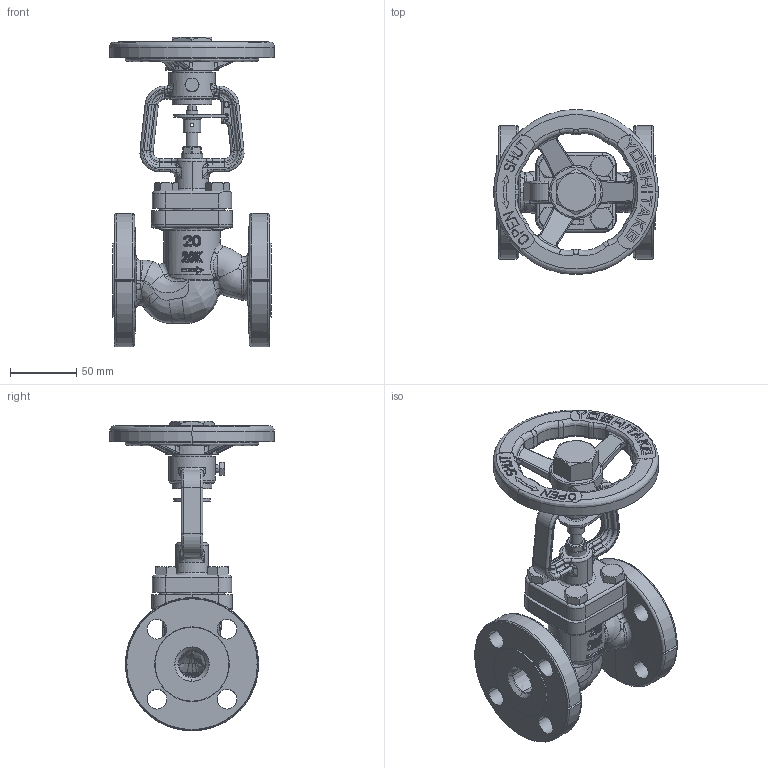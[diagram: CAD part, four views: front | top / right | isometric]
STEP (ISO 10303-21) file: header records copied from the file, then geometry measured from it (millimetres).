
FILE_DESCRIPTION( (''), '2;1');
FILE_NAME ('PC1027.9568.BSV-20F 20A_25388.stp','2025-07-28T09:34:04',(''),(''),'spGate 19.8.4 (****-****-****-****)','','');
FILE_SCHEMA (('AUTOMOTIVE_DESIGN'));
Length unit declared in the file: millimetre
Products named in the file (12): Assembly; ボンネット15-20A; スリーブワッシャー15-32A; スリーブ15-20A; 弁棒15-20A; ストッパー15-20A; ハンドル15-32A; グランドナット15-20A; CP_''_JIS B 1180 呼び径六角ボ''_(1)_17166; ハンドルナット15-32A; CP_''_JIS B 1180 呼び径六角ボルト''_17166; 本体20K 20A
Assembly tree (15 placements, depth 2):
  Assembly
    ボンネット15-20A
    スリーブワッシャー15-32A  x2
    スリーブ15-20A
    弁棒15-20A
    ストッパー15-20A
    ハンドル15-32A
    グランドナット15-20A
    CP_''_JIS B 1180 呼び径六角ボ''_(1)_17166
    ハンドルナット15-32A
    CP_''_JIS B 1180 呼び径六角ボルト''_17166  x4
    本体20K 20A
Bounding box: 125 x 125 x 234.5 mm (x, y, z)
Volume: 530261.5 mm3; surface area: 163531 mm2
Topology: 15 solids, 15 shells, 1814 faces, 4451 edges, 2677 vertices
Faces by surface type: bspline 907, cylinder 471, plane 423, sphere 13
Entity records: 113342 total; most frequent: CARTESIAN_POINT 46982, ORIENTED_EDGE 8432, COLOUR_RGB 5951, PRESENTATION_STYLE_ASSIGNMENT 5951, STYLED_ITEM 5951, DIRECTION 4757, EDGE_CURVE 4216, DRAUGHTING_PRE_DEFINED_CURVE_FONT 4216
